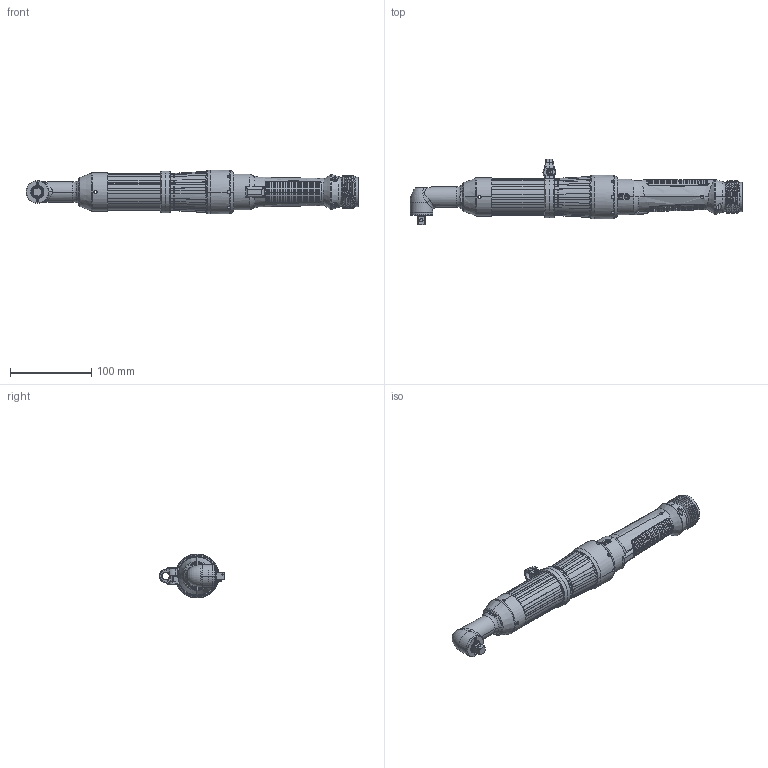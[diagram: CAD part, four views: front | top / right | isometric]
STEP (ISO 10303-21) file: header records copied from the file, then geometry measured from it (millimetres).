
FILE_DESCRIPTION((''),'2;1');
FILE_NAME('ASM0001_ASM','2016-09-13T',('greextsd'),(''),'CREO PARAMETRIC BY PTC INC, 2016130','CREO PARAMETRIC BY PTC INC, 2016130','');
FILE_SCHEMA(('AUTOMOTIVE_DESIGN { 1 0 10303 214 1 1 1 1 }'));
Products named in the file (3): ERAL1-5-15-25-35; NEW_RA_COUPE; ASM0001_ASM
Assembly tree (2 placements, depth 2):
  ASM0001_ASM
    ERAL1-5-15-25-35
    NEW_RA_COUPE
Bounding box: 408.4 x 80.67 x 54 mm (x, y, z)
Volume: 172369.5 mm3; surface area: 138546.9 mm2
Topology: 34 solids, 36 shells, 3819 faces, 9738 edges, 6173 vertices
Faces by surface type: plane 1808, cylinder 954, bspline 598, cone 192, torus 184, sphere 35, extrusion 33, revolution 15
Entity records: 218972 total; most frequent: CARTESIAN_POINT 108085, ORIENTED_EDGE 19444, DIRECTION 14129, EDGE_CURVE 9722, VERTEX_POINT 6173, AXIS2_PLACEMENT_3D 5124, EDGE_LOOP 4149, B_SPLINE_CURVE_WITH_KNOTS 3991
